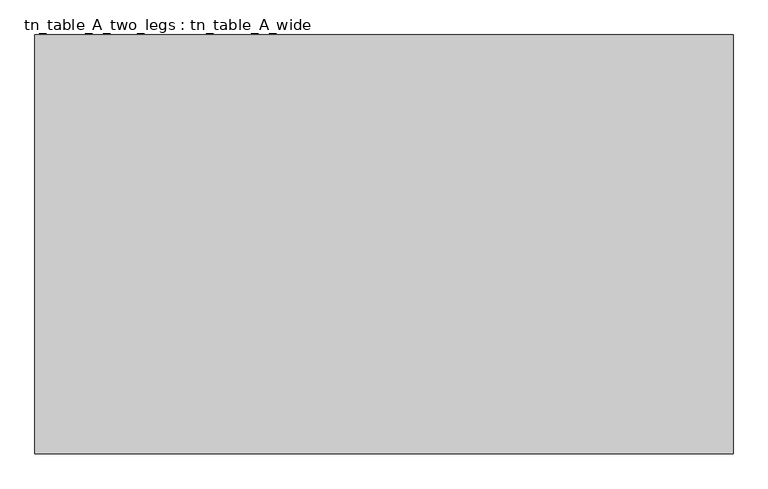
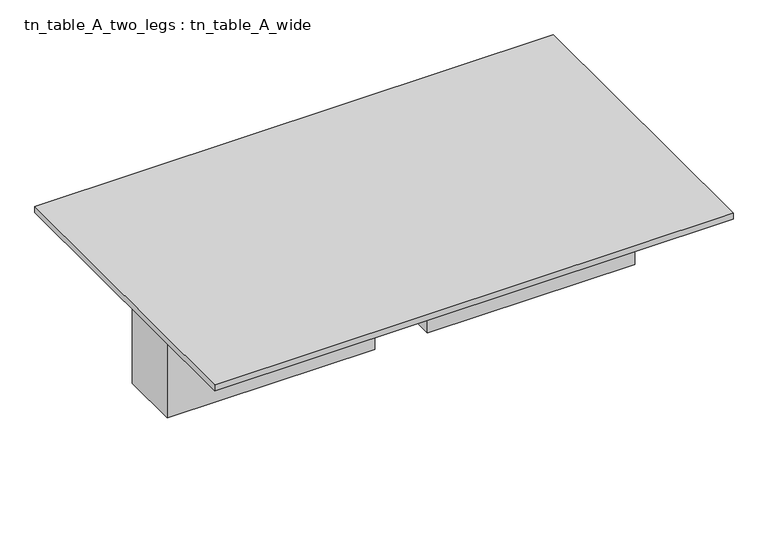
"""IFC4 building model written with IfcOpenShell, lengths in millimetres: furniture geometry, tn_table_A_two_legs : tn_table_A_wide."""

from ifc_helpers import new_model, si_unit, frame, origin, origin_with_axes, place, context, project, spatial, polyline, outline, extrude, source, transform, mapped, element, save


def tn_table_a_two_legs_tn_table_a_wide_599f4323(model_context):
    return source(origin(), model_context, "Body", "SweptSolid", [
        extrude(outline(polyline([(1447.8, 177.8), (1447.8, -177.8), (228.6, -177.8), (228.6, 177.8), (1447.8, 177.8)])), origin_with_axes(), (0.0, 0.0, 1.0), 673.1),
        extrude(outline(polyline([(-76.2, 186.6425858), (-76.2, -168.9574142), (-1295.4, -168.9574142), (-1295.4, 186.6425858), (-76.2, 186.6425858)])), origin_with_axes(), (0.0, 0.0, 1.0), 673.1),
        extrude(outline(polyline([(1600.2, 914.4), (1600.2, -914.4), (-1447.8, -914.4), (-1447.8, 914.4), (1600.2, 914.4)])), frame((0.0, 0.0, 673.1), z_axis=(0.0, 0.0, 1.0), x_axis=(1.0, 0.0, 0.0)), (0.0, 0.0, 1.0), 38.1),
    ])


if __name__ == "__main__":
    model = new_model("IFC4")
    model_context = context("Model", 3, world=origin())
    ifc_project = project(units=[si_unit("LENGTHUNIT", "METRE", prefix="MILLI")], contexts=[model_context])
    site = spatial("IfcSite", under=ifc_project)
    building = spatial("IfcBuilding", under=site)
    placement = place(None, origin())
    tn_table_a_two_legs_tn_table_a_wide_shape = tn_table_a_two_legs_tn_table_a_wide_599f4323(model_context)
    element("IfcFurniture", 1, ObjectType="tn_table_A_two_legs : tn_table_A_wide", at=placement, inside=building, context=model_context, shape_type="MappedRepresentation", body=[
        mapped(tn_table_a_two_legs_tn_table_a_wide_shape, transform((0.0, 0.0, 0.0), x_axis=(1.0, 0.0, 0.0), y_axis=(0.0, 1.0, 0.0), z_axis=(0.0, 0.0, 1.0))),
    ])
    save(model, "model.ifc")
